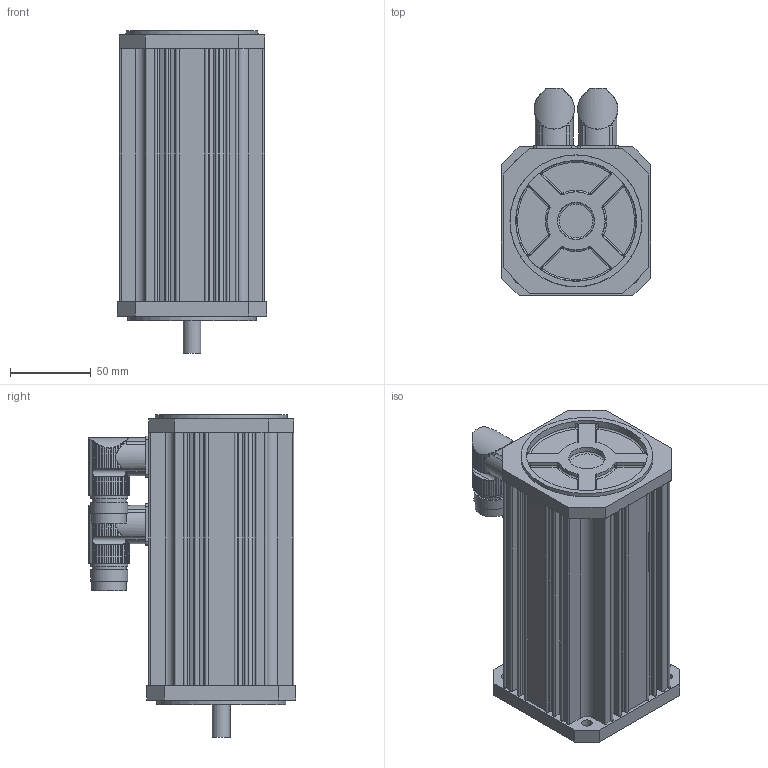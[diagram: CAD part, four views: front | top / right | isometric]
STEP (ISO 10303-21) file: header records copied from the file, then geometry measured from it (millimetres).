
FILE_DESCRIPTION(/* description */ (''),/* implementation_level */ '2;1');
FILE_NAME(/* name */ 'KSA344_Ix',/* time_stamp */ '2009-02-26T13:12:46+01:00',/* author */ (''),/* organization */ (''),/* preprocessor_version */ 'ST-DEVELOPER v8',/* originating_system */ 'UNIGRAPHICS SOLUTIONS - UNIGRAPHICS 18.0',/* authorisation */ '');
FILE_SCHEMA (('AUTOMOTIVE_DESIGN { 1 2 10303 214 0 1 1 1 }'));
Length unit declared in the file: millimetre
Products named in the file (4): Winkelflanschdose_0; Lagersch3BS_0; Lagersch3AS_0; KSA324_I27_0
Assembly tree (4 placements, depth 2):
  KSA324_I27_0
    Lagersch3AS_0
    Lagersch3BS_0
    Winkelflanschdose_0  x2
Bounding box: 92.6 x 128.79 x 200 mm (x, y, z)
Volume: 460618.2 mm3; surface area: 171932.3 mm2
Topology: 5 solids, 5 shells, 558 faces, 1545 edges, 1022 vertices
Faces by surface type: cylinder 376, plane 129, bspline 32, torus 12, cone 9
Full cylindrical faces by diameter (mm): 6.5 x4, 11 x1, 12 x1, 16 x2, 20 x2, 21 x2, 21.5 x2, 23 x4, 45 x1, 73 x1, 80 x2, 81 x2
Entity records: 14028 total; most frequent: CARTESIAN_POINT 4047, ORIENTED_EDGE 2076, DIRECTION 1934, EDGE_CURVE 1038, AXIS2_PLACEMENT_3D 755, VERTEX_POINT 698, EDGE_LOOP 450, LINE 424
